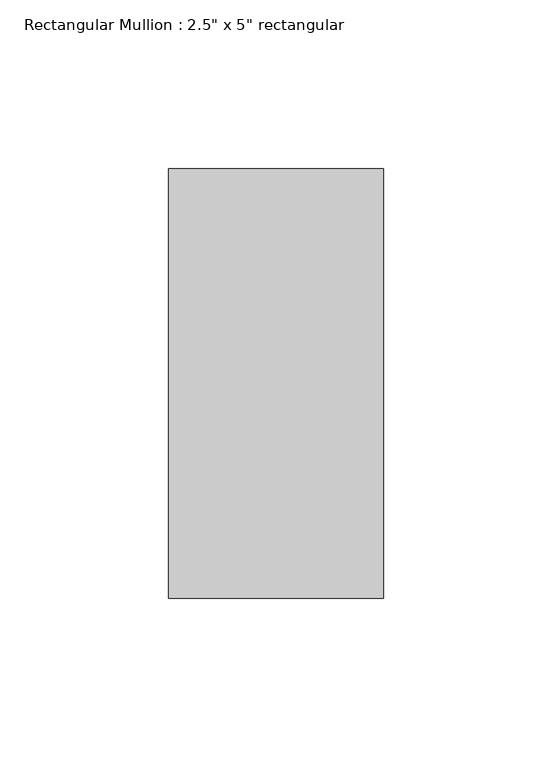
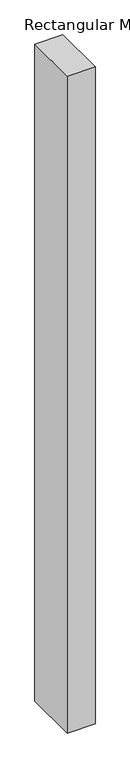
"""IFC4 building model written with IfcOpenShell, lengths in millimetres: member geometry."""

from ifc_helpers import new_model, si_unit, frame, origin, place, context, project, spatial, polyline, outline, extrude, source, transform, mapped, element, save


def member_ca25ccc8(model_context):
    return source(origin(), model_context, "Body", "SweptSolid", [
        extrude(outline(polyline([(31.75, 63.5), (31.75, -63.5), (-31.75, -63.5), (-31.75, 63.5), (31.75, 63.5)])), frame((0.0, 0.0, -1581.15), z_axis=(0.0, 0.0, 1.0), x_axis=(1.0, 0.0, 0.0)), (0.0, 0.0, 1.0), 1581.15),
    ])


if __name__ == "__main__":
    model = new_model("IFC4")
    model_context = context("Model", 3, world=origin())
    ifc_project = project(units=[si_unit("LENGTHUNIT", "METRE", prefix="MILLI")], contexts=[model_context])
    site = spatial("IfcSite", under=ifc_project)
    building = spatial("IfcBuilding", under=site)
    placement = place(None, origin())
    member_shape = member_ca25ccc8(model_context)
    element("IfcMember", 1, ObjectType="Rectangular Mullion : 2.5\" x 5\" rectangular", at=placement, inside=building, context=model_context, shape_type="MappedRepresentation", body=[
        mapped(member_shape, transform((0.0, 0.0, 0.0), x_axis=(1.0, 0.0, 0.0), y_axis=(0.0, 1.0, 0.0), z_axis=(0.0, 0.0, 1.0))),
    ])
    save(model, "model.ifc")
